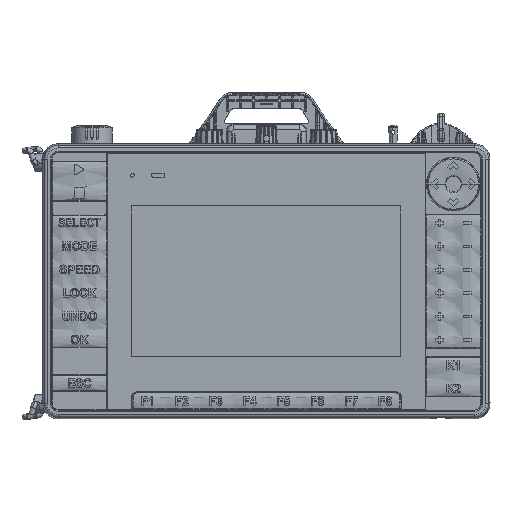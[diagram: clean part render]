
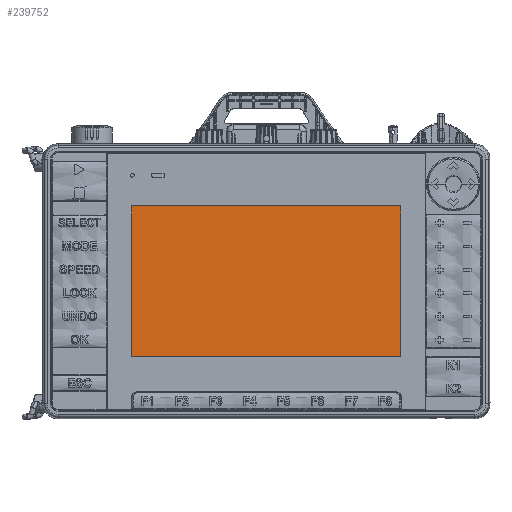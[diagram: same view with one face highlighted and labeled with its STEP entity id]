
A CAD part, top view. The second image highlights one B-rep face of the part: STEP entity #239752.
In plain terms, the highlighted planar face has unit normal (0, 0, 1).
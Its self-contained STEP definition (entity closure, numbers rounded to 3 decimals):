
#2877 = VERTEX_POINT ( 'NONE', #256745 ) ;
#16955 = DIRECTION ( 'NONE',  ( 1., 0., 0. ) ) ;
#24498 = CARTESIAN_POINT ( 'NONE',  ( 77.605, -43.46, 8.98 ) ) ;
#36681 = EDGE_CURVE ( 'NONE', #304253, #120442, #208760, .T. ) ;
#38201 = CARTESIAN_POINT ( 'NONE',  ( 77.605, -43.46, 8.98 ) ) ;
#44203 = DIRECTION ( 'NONE',  ( 0., 0., 1. ) ) ;
#44331 = CARTESIAN_POINT ( 'NONE',  ( -77.605, 43.46, 8.98 ) ) ;
#75557 = CARTESIAN_POINT ( 'NONE',  ( 77.605, -43.46, 8.98 ) ) ;
#83296 = VECTOR ( 'NONE', #278549, 1000. ) ;
#85549 = CARTESIAN_POINT ( 'NONE',  ( 77.605, 43.46, 8.98 ) ) ;
#120442 = VERTEX_POINT ( 'NONE', #44331 ) ;
#132604 = VECTOR ( 'NONE', #169146, 1000. ) ;
#138284 = DIRECTION ( 'NONE',  ( -1., 0., 0. ) ) ;
#139958 = VECTOR ( 'NONE', #225804, 1000. ) ;
#140883 = EDGE_CURVE ( 'NONE', #263050, #304253, #309309, .T. ) ;
#169146 = DIRECTION ( 'NONE',  ( 0., -1., 0. ) ) ;
#177159 = EDGE_LOOP ( 'NONE', ( #201517, #200738, #262784, #247868 ) ) ;
#177853 = LINE ( 'NONE', #75557, #83296 ) ;
#198782 = VECTOR ( 'NONE', #138284, 1000. ) ;
#200738 = ORIENTED_EDGE ( 'NONE', *, *, #36681, .T. ) ;
#201517 = ORIENTED_EDGE ( 'NONE', *, *, #140883, .T. ) ;
#208760 = LINE ( 'NONE', #85549, #198782 ) ;
#216973 = CARTESIAN_POINT ( 'NONE',  ( -77.605, -43.46, 8.98 ) ) ;
#218764 = EDGE_CURVE ( 'NONE', #120442, #2877, #220346, .T. ) ;
#220346 = LINE ( 'NONE', #216973, #132604 ) ;
#220598 = EDGE_CURVE ( 'NONE', #2877, #263050, #177853, .T. ) ;
#224951 = CARTESIAN_POINT ( 'NONE',  ( 0., 0., 8.98 ) ) ;
#225804 = DIRECTION ( 'NONE',  ( 0., 1., 0. ) ) ;
#239752 = ADVANCED_FACE ( 'NONE', ( #274437 ), #324003, .T. ) ;
#247868 = ORIENTED_EDGE ( 'NONE', *, *, #220598, .T. ) ;
#256745 = CARTESIAN_POINT ( 'NONE',  ( -77.605, -43.46, 8.98 ) ) ;
#257723 = CARTESIAN_POINT ( 'NONE',  ( 77.605, 43.46, 8.98 ) ) ;
#262784 = ORIENTED_EDGE ( 'NONE', *, *, #218764, .T. ) ;
#263050 = VERTEX_POINT ( 'NONE', #38201 ) ;
#274437 = FACE_OUTER_BOUND ( 'NONE', #177159, .T. ) ;
#276701 = AXIS2_PLACEMENT_3D ( 'NONE', #224951, #44203, #16955 ) ;
#278549 = DIRECTION ( 'NONE',  ( 1., 0., 0. ) ) ;
#304253 = VERTEX_POINT ( 'NONE', #257723 ) ;
#309309 = LINE ( 'NONE', #24498, #139958 ) ;
#324003 = PLANE ( 'NONE',  #276701 ) ;
